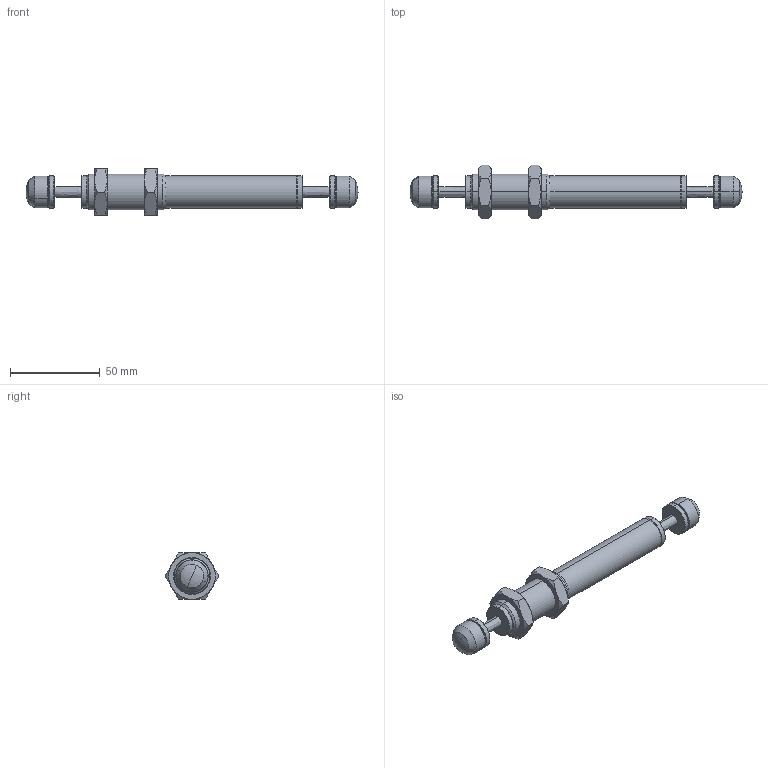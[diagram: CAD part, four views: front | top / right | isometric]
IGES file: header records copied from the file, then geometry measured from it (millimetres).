
Start section: SolidWorks IGES file using analytic representation for surfaces
Global section: file name: D:\IGS跡宒\ACD2030.IGS,1; native system: 5HSolidWorks 2013; preprocessor: SolidWorks 2013; author: Administrator; date: 160406.152537; units: inch
Bounding box: 185 x 30.02 x 26 mm (x, y, z)
Surface area: 15956.3 mm2 (no closed solid volume)
Topology: 0 solids, 0 shells, 116 faces, 1760 edges, 1758 vertices
Faces by surface type: revolution 90, bspline 26
